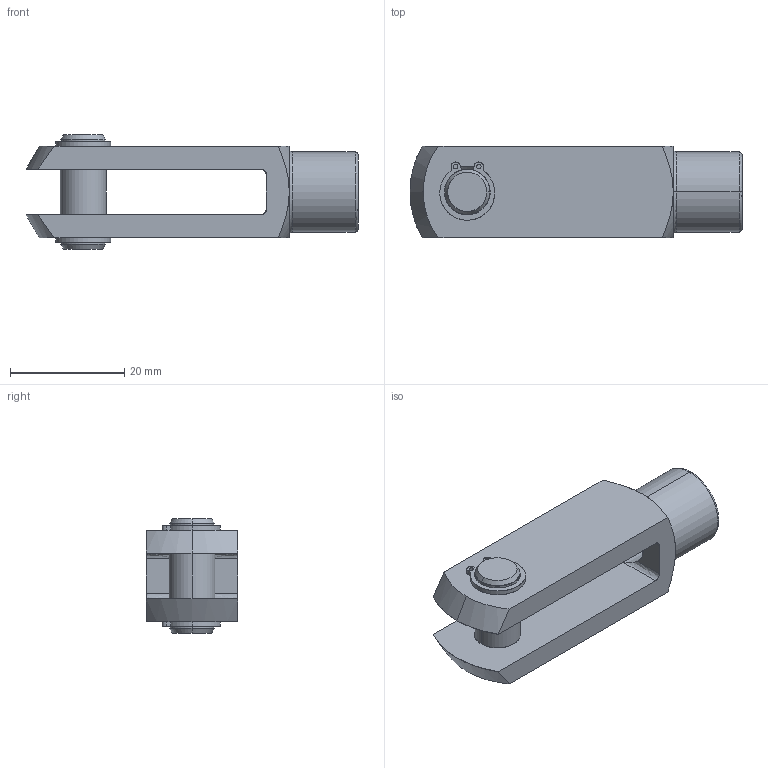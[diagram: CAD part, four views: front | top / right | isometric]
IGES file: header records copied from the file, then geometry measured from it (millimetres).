
Start section: SolidWorks IGES file using analytic representation for surfaces
Global section: file name: C:\Documents and Settings\IANO\My Documents\Wix and Auto CAD Work\CAD Models\Parametric Models\Wix Models\60000\65614_v2\65614_v2_IGES\65614.W0084.igs; native system: SolidWorks 2009; preprocessor: SolidWorks 2009; author: IANO; date: 140118.103922; units: millimetre
Bounding box: 58 x 16 x 20 mm (x, y, z)
Surface area: 5499.2 mm2 (no closed solid volume)
Topology: 0 solids, 0 shells, 91 faces, 1504 edges, 1504 vertices
Faces by surface type: revolution 59, bspline 32
